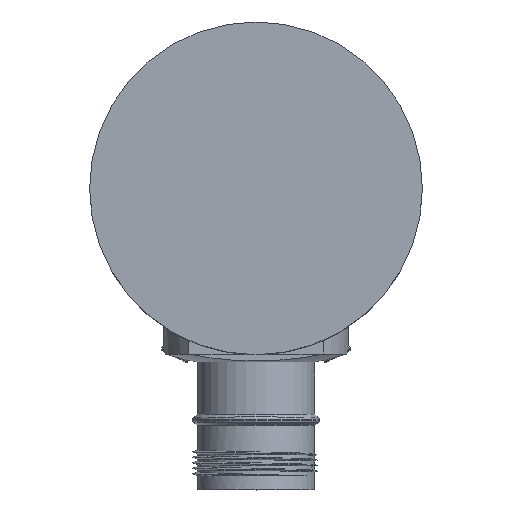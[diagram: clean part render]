
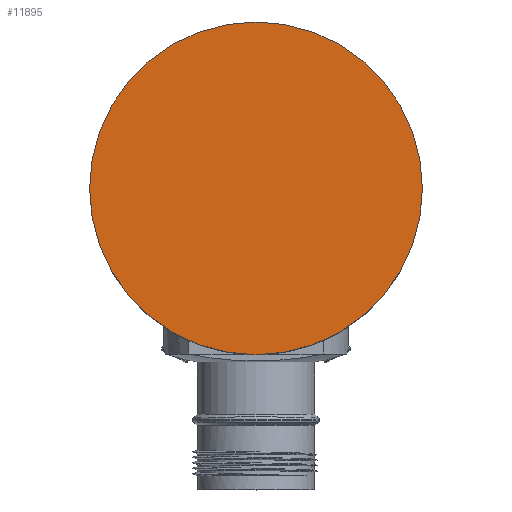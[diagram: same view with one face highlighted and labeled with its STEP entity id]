
A CAD part, top view. The second image highlights one B-rep face of the part: STEP entity #11895.
In plain terms, the highlighted planar face has unit normal (0, 0, 1).
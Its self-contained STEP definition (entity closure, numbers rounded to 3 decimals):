
#11801 = VERTEX_POINT ( 'NONE', #17331 ) ;
#11803 = EDGE_CURVE ( 'NONE', #11804, #11801, #17330, .T. ) ;
#11804 = VERTEX_POINT ( 'NONE', #17325 ) ;
#11832 = EDGE_CURVE ( 'NONE', #11801, #11804, #17365, .T. ) ;
#11895 = ADVANCED_FACE ( 'NONE', ( #17631 ), #17629, .F. ) ;
#11896 = EDGE_LOOP ( 'NONE', ( #11897, #11898 ) ) ;
#11897 = ORIENTED_EDGE ( 'NONE', *, *, #11803, .T. ) ;
#11898 = ORIENTED_EDGE ( 'NONE', *, *, #11832, .T. ) ;
#17325 = CARTESIAN_POINT ( 'NONE',  ( 0., -30.4, 0. ) ) ;
#17326 = DIRECTION ( 'NONE',  ( 0., -1., 0. ) ) ;
#17327 = DIRECTION ( 'NONE',  ( 0., 0., 1. ) ) ;
#17328 = CARTESIAN_POINT ( 'NONE',  ( 0., 0., 0. ) ) ;
#17329 = AXIS2_PLACEMENT_3D ( 'NONE', #17328, #17327, #17326 ) ;
#17330 = CIRCLE ( 'NONE', #17329, 30.4 ) ;
#17331 = CARTESIAN_POINT ( 'NONE',  ( 0., 30.4, 0. ) ) ;
#17365 = CIRCLE ( 'NONE', #17432, 30.4 ) ;
#17429 = DIRECTION ( 'NONE',  ( 0., -1., 0. ) ) ;
#17430 = DIRECTION ( 'NONE',  ( 0., 0., 1. ) ) ;
#17431 = CARTESIAN_POINT ( 'NONE',  ( 0., 0., 0. ) ) ;
#17432 = AXIS2_PLACEMENT_3D ( 'NONE', #17431, #17430, #17429 ) ;
#17621 = DIRECTION ( 'NONE',  ( 0., 1., 0. ) ) ;
#17622 = DIRECTION ( 'NONE',  ( 0., 0., -1. ) ) ;
#17623 = CARTESIAN_POINT ( 'NONE',  ( 30.4, 0., 0. ) ) ;
#17624 = AXIS2_PLACEMENT_3D ( 'NONE', #17623, #17622, #17621 ) ;
#17629 = PLANE ( 'NONE',  #17624 ) ;
#17631 = FACE_OUTER_BOUND ( 'NONE', #11896, .T. ) ;
